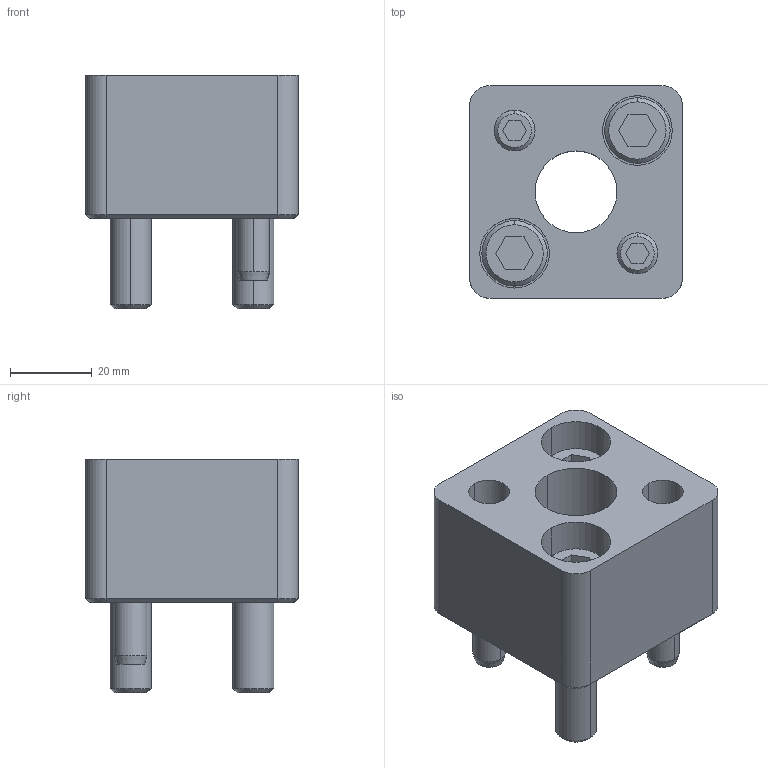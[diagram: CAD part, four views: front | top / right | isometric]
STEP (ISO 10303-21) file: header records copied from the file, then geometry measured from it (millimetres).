
FILE_DESCRIPTION(/* description */ (''),/* implementation_level */ '2;1');
FILE_NAME(/* name */ '3d_hasar20_04019_r00.stp',/* time_stamp */ '2011-01-10T14:14:56+09:00',/* author */ ('MISUMI'),/* organization */ (''),/* preprocessor_version */ 'ST-DEVELOPER v11',/* originating_system */ 'UGS - NX 5.0',/* authorisation */ '');
FILE_SCHEMA (('CONFIG_CONTROL_DESIGN'));
Length unit declared in the file: millimetre
Products named in the file (1): 3d_hasar20_04019_r00
Bounding box: 52 x 52 x 57 mm (x, y, z)
Volume: 78891 mm3; surface area: 25885 mm2
Topology: 7 solids, 7 shells, 143 faces, 310 edges, 196 vertices
Faces by surface type: plane 63, cylinder 50, cone 30
Entity records: 4026 total; most frequent: DIRECTION 718, CARTESIAN_POINT 704, ORIENTED_EDGE 620, EDGE_CURVE 310, AXIS2_PLACEMENT_3D 274, VERTEX_POINT 196, LINE 170, VECTOR 170
